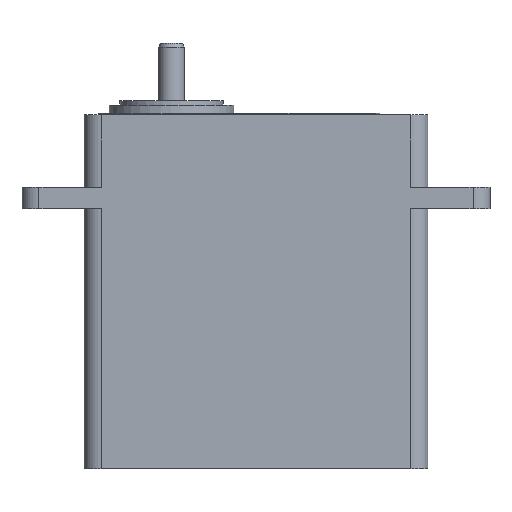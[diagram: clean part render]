
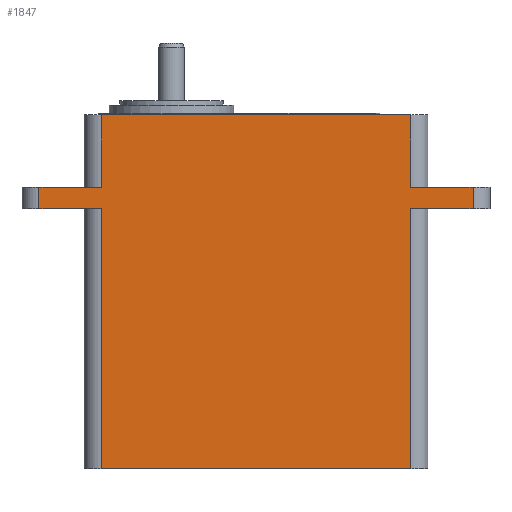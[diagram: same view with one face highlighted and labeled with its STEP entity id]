
A CAD part, front view. The second image highlights one B-rep face of the part: STEP entity #1847.
In plain terms, the highlighted planar face has unit normal (0, -1, 0).
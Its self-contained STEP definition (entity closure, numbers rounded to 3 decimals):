
#10 = ORIENTED_EDGE ( 'NONE', *, *, #1138, .T. ) ;
#94 = CARTESIAN_POINT ( 'NONE',  ( 28.172, -10.5, -1.791 ) ) ;
#150 = ORIENTED_EDGE ( 'NONE', *, *, #625, .F. ) ;
#188 = CARTESIAN_POINT ( 'NONE',  ( -8.272, -10.5, -12.841 ) ) ;
#197 = VECTOR ( 'NONE', #789, 1000. ) ;
#200 = VERTEX_POINT ( 'NONE', #229 ) ;
#217 = CARTESIAN_POINT ( 'NONE',  ( 28.172, -10.5, -12.841 ) ) ;
#223 = FACE_OUTER_BOUND ( 'NONE', #1933, .T. ) ;
#229 = CARTESIAN_POINT ( 'NONE',  ( 35.5, -10.5, -12.841 ) ) ;
#253 = ORIENTED_EDGE ( 'NONE', *, *, #1831, .T. ) ;
#272 = VERTEX_POINT ( 'NONE', #1006 ) ;
#310 = VECTOR ( 'NONE', #1393, 1000. ) ;
#367 = CARTESIAN_POINT ( 'NONE',  ( 35.5, -10.5, -10.341 ) ) ;
#392 = VECTOR ( 'NONE', #731, 1000. ) ;
#402 = ORIENTED_EDGE ( 'NONE', *, *, #1083, .F. ) ;
#444 = LINE ( 'NONE', #1053, #392 ) ;
#448 = ORIENTED_EDGE ( 'NONE', *, *, #1110, .T. ) ;
#469 = CARTESIAN_POINT ( 'NONE',  ( 30.172, -10.5, -10.341 ) ) ;
#478 = CARTESIAN_POINT ( 'NONE',  ( -15.6, -10.5, -10.341 ) ) ;
#514 = DIRECTION ( 'NONE',  ( -1., 0., 0. ) ) ;
#520 = LINE ( 'NONE', #988, #197 ) ;
#532 = ORIENTED_EDGE ( 'NONE', *, *, #1743, .F. ) ;
#545 = CARTESIAN_POINT ( 'NONE',  ( -8.272, -10.5, -43.491 ) ) ;
#548 = CARTESIAN_POINT ( 'NONE',  ( -8.272, -10.5, -43.491 ) ) ;
#563 = VERTEX_POINT ( 'NONE', #1888 ) ;
#625 = EDGE_CURVE ( 'NONE', #1489, #272, #1859, .T. ) ;
#655 = ORIENTED_EDGE ( 'NONE', *, *, #936, .T. ) ;
#666 = VECTOR ( 'NONE', #1949, 1000. ) ;
#667 = CARTESIAN_POINT ( 'NONE',  ( 0., -10.5, -43.491 ) ) ;
#687 = CARTESIAN_POINT ( 'NONE',  ( -8.272, -10.5, -43.491 ) ) ;
#688 = ORIENTED_EDGE ( 'NONE', *, *, #868, .T. ) ;
#729 = DIRECTION ( 'NONE',  ( 0., 0., -1. ) ) ;
#731 = DIRECTION ( 'NONE',  ( 0., 0., 1. ) ) ;
#733 = VERTEX_POINT ( 'NONE', #687 ) ;
#764 = VERTEX_POINT ( 'NONE', #217 ) ;
#789 = DIRECTION ( 'NONE',  ( -1., 0., 0. ) ) ;
#823 = CARTESIAN_POINT ( 'NONE',  ( 28.172, -10.5, -10.341 ) ) ;
#841 = ORIENTED_EDGE ( 'NONE', *, *, #1781, .T. ) ;
#844 = EDGE_CURVE ( 'NONE', #1649, #1787, #1981, .T. ) ;
#851 = DIRECTION ( 'NONE',  ( 0., -1., 0. ) ) ;
#868 = EDGE_CURVE ( 'NONE', #1489, #1396, #444, .T. ) ;
#883 = DIRECTION ( 'NONE',  ( 0., 0., -1. ) ) ;
#887 = CARTESIAN_POINT ( 'NONE',  ( -17.6, -10.5, -10.341 ) ) ;
#893 = VECTOR ( 'NONE', #1255, 1000. ) ;
#923 = VECTOR ( 'NONE', #514, 1000. ) ;
#936 = EDGE_CURVE ( 'NONE', #1649, #1078, #1857, .T. ) ;
#988 = CARTESIAN_POINT ( 'NONE',  ( 30.172, -10.5, -12.841 ) ) ;
#1006 = CARTESIAN_POINT ( 'NONE',  ( 35.5, -10.5, -10.341 ) ) ;
#1011 = LINE ( 'NONE', #1790, #1884 ) ;
#1053 = CARTESIAN_POINT ( 'NONE',  ( 28.172, -10.5, -43.491 ) ) ;
#1058 = EDGE_CURVE ( 'NONE', #1477, #733, #1103, .T. ) ;
#1068 = ORIENTED_EDGE ( 'NONE', *, *, #844, .F. ) ;
#1078 = VERTEX_POINT ( 'NONE', #1441 ) ;
#1083 = EDGE_CURVE ( 'NONE', #1477, #1078, #1616, .T. ) ;
#1102 = LINE ( 'NONE', #1595, #893 ) ;
#1103 = LINE ( 'NONE', #548, #666 ) ;
#1110 = EDGE_CURVE ( 'NONE', #563, #764, #1011, .T. ) ;
#1117 = VECTOR ( 'NONE', #1990, 1000. ) ;
#1138 = EDGE_CURVE ( 'NONE', #733, #563, #1430, .T. ) ;
#1240 = ORIENTED_EDGE ( 'NONE', *, *, #1058, .T. ) ;
#1255 = DIRECTION ( 'NONE',  ( 1., 0., 0. ) ) ;
#1320 = CARTESIAN_POINT ( 'NONE',  ( -17.6, -10.5, -12.841 ) ) ;
#1330 = PLANE ( 'NONE',  #1335 ) ;
#1335 = AXIS2_PLACEMENT_3D ( 'NONE', #1479, #851, #883 ) ;
#1357 = VERTEX_POINT ( 'NONE', #1398 ) ;
#1393 = DIRECTION ( 'NONE',  ( 0., 0., -1. ) ) ;
#1396 = VERTEX_POINT ( 'NONE', #94 ) ;
#1398 = CARTESIAN_POINT ( 'NONE',  ( -8.272, -10.5, -1.791 ) ) ;
#1400 = CARTESIAN_POINT ( 'NONE',  ( -15.6, -10.5, -43.491 ) ) ;
#1430 = LINE ( 'NONE', #667, #1554 ) ;
#1441 = CARTESIAN_POINT ( 'NONE',  ( -15.6, -10.5, -12.841 ) ) ;
#1477 = VERTEX_POINT ( 'NONE', #188 ) ;
#1479 = CARTESIAN_POINT ( 'NONE',  ( 0., -10.5, -43.491 ) ) ;
#1489 = VERTEX_POINT ( 'NONE', #823 ) ;
#1509 = VECTOR ( 'NONE', #1899, 1000. ) ;
#1554 = VECTOR ( 'NONE', #1907, 1000. ) ;
#1587 = DIRECTION ( 'NONE',  ( 0., 0., 1. ) ) ;
#1595 = CARTESIAN_POINT ( 'NONE',  ( -10.272, -10.5, -1.791 ) ) ;
#1606 = LINE ( 'NONE', #545, #1628 ) ;
#1616 = LINE ( 'NONE', #1320, #923 ) ;
#1628 = VECTOR ( 'NONE', #729, 1000. ) ;
#1649 = VERTEX_POINT ( 'NONE', #478 ) ;
#1724 = VECTOR ( 'NONE', #1729, 1000. ) ;
#1729 = DIRECTION ( 'NONE',  ( 0., 0., 1. ) ) ;
#1739 = CARTESIAN_POINT ( 'NONE',  ( -8.272, -10.5, -10.341 ) ) ;
#1743 = EDGE_CURVE ( 'NONE', #1357, #1396, #1102, .T. ) ;
#1757 = LINE ( 'NONE', #367, #1724 ) ;
#1778 = EDGE_CURVE ( 'NONE', #200, #764, #520, .T. ) ;
#1781 = EDGE_CURVE ( 'NONE', #200, #272, #1757, .T. ) ;
#1787 = VERTEX_POINT ( 'NONE', #1739 ) ;
#1790 = CARTESIAN_POINT ( 'NONE',  ( 28.172, -10.5, -43.491 ) ) ;
#1831 = EDGE_CURVE ( 'NONE', #1357, #1787, #1606, .T. ) ;
#1847 = ADVANCED_FACE ( 'NONE', ( #223 ), #1330, .T. ) ;
#1857 = LINE ( 'NONE', #1400, #310 ) ;
#1859 = LINE ( 'NONE', #469, #1509 ) ;
#1877 = ORIENTED_EDGE ( 'NONE', *, *, #1778, .F. ) ;
#1884 = VECTOR ( 'NONE', #1587, 1000. ) ;
#1888 = CARTESIAN_POINT ( 'NONE',  ( 28.172, -10.5, -43.491 ) ) ;
#1899 = DIRECTION ( 'NONE',  ( 1., 0., 0. ) ) ;
#1907 = DIRECTION ( 'NONE',  ( 1., 0., 0. ) ) ;
#1933 = EDGE_LOOP ( 'NONE', ( #10, #448, #1877, #841, #150, #688, #532, #253, #1068, #655, #402, #1240 ) ) ;
#1949 = DIRECTION ( 'NONE',  ( 0., 0., -1. ) ) ;
#1981 = LINE ( 'NONE', #887, #1117 ) ;
#1990 = DIRECTION ( 'NONE',  ( 1., 0., 0. ) ) ;
